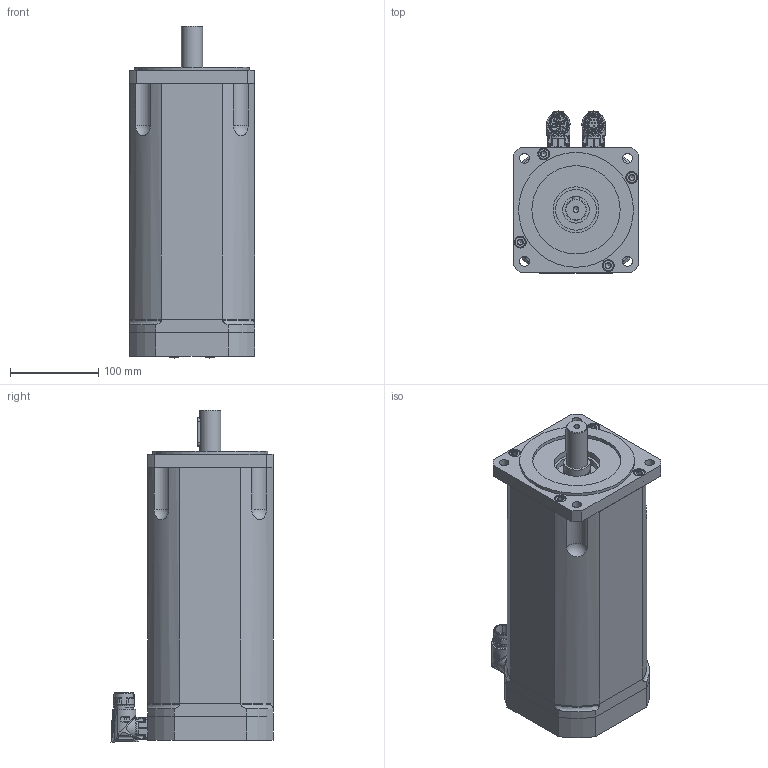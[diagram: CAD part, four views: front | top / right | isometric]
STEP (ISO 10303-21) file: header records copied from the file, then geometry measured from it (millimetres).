
FILE_DESCRIPTION(/* description */ (''),/* implementation_level */ '2;1');
FILE_NAME(/* name */ 'C:\Users\Public\Documents\Autodesk\Inventor LT 2014\Workspace\Motori Sito WEB\TG_5\STEP_DSM5_5x\DSM5_54_x097.stp',/* time_stamp */ '2021-03-31T14:18:28+02:00',/* author */ ('marcor'),/* organization */ (''),/* preprocessor_version */ 'ST-DEVELOPER v15.2',/* originating_system */ 'Autodesk Inventor LT ',/* authorisation */ '');
FILE_SCHEMA (('AUTOMOTIVE_DESIGN { 1 0 10303 214 3 1 1 }'));
Products named in the file (1): DSM5_54_x097
Bounding box: 142 x 183.5 x 375.91 mm (x, y, z)
Volume: 5953924.3 mm3; surface area: 360324.3 mm2
Topology: 16 solids, 32 shells, 1520 faces, 3947 edges, 2627 vertices
Faces by surface type: plane 530, cylinder 449, cone 319, bspline 113, torus 77, sphere 32
Full cylindrical faces by diameter (mm): 1.2 x12, 2.013 x8, 2.224 x8, 2.233 x6, 2.5 x8, 2.88 x8, 3.26 x8, 4.5 x2, 4.8 x8, 4.917 x4, 5.5 x3, 5.9 x2, 6 x4, 6.5 x4, 6.647 x9, 8 x8, 8.5 x8, 10 x4, 11 x8, 13 x8, 13.5 x8, 15.2 x1, 17.4 x3, 18 x1, 19.8 x1, 20 x2, 21.15 x4, 21.6 x1, 21.653 x2, 24 x1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
Entity records: 53510 total; most frequent: CARTESIAN_POINT 18180, ORIENTED_EDGE 6978, DIRECTION 6567, EDGE_CURVE 3489, AXIS2_PLACEMENT_3D 2668, VERTEX_POINT 2503, EDGE_LOOP 2036, ADVANCED_FACE 1520
